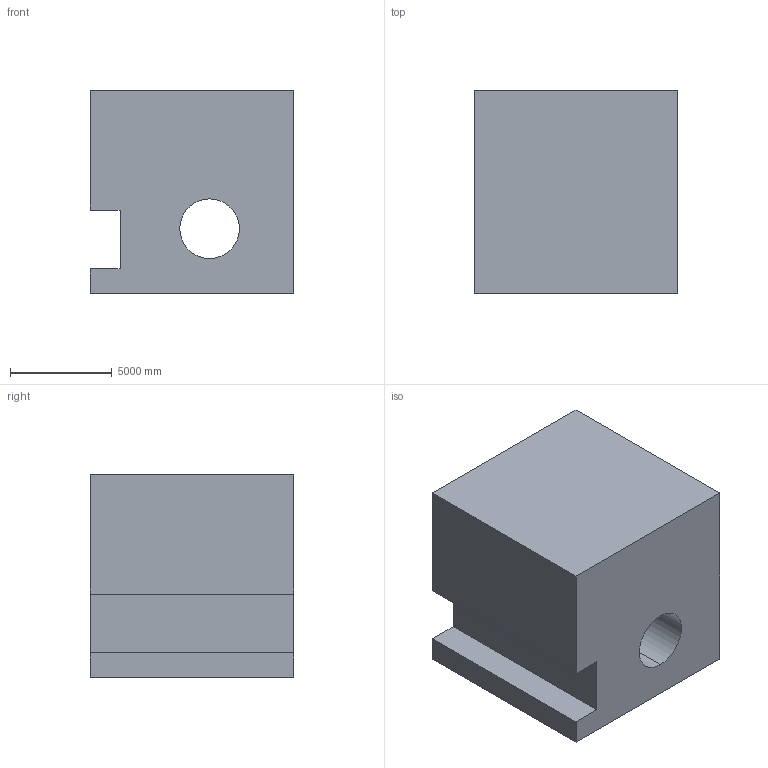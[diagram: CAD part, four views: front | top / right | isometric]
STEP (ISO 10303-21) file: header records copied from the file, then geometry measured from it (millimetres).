
FILE_DESCRIPTION (( 'STEP AP203' ), '1' );
FILE_NAME ('37.STEP', '2022-07-28T13:27:48', ( 'user' ), ( '' ), 'SwSTEP 2.0', 'SolidWorks 2021', '' );
FILE_SCHEMA (( 'CONFIG_CONTROL_DESIGN' ));
Length unit declared in the file: centimetre
Products named in the file (1): 37
Bounding box: 10000 x 10000 x 10000 mm (x, y, z)
Volume: 890236774993.5 mm3; surface area: 699357058.5 mm2
Topology: 1 solids, 1 shells, 12 faces, 30 edges, 20 vertices
Faces by surface type: plane 10, cylinder 2
Entity records: 439 total; most frequent: CARTESIAN_POINT 63, ORIENTED_EDGE 60, DIRECTION 60, EDGE_CURVE 30, VECTOR 26, LINE 26, VERTEX_POINT 20, AXIS2_PLACEMENT_3D 17
